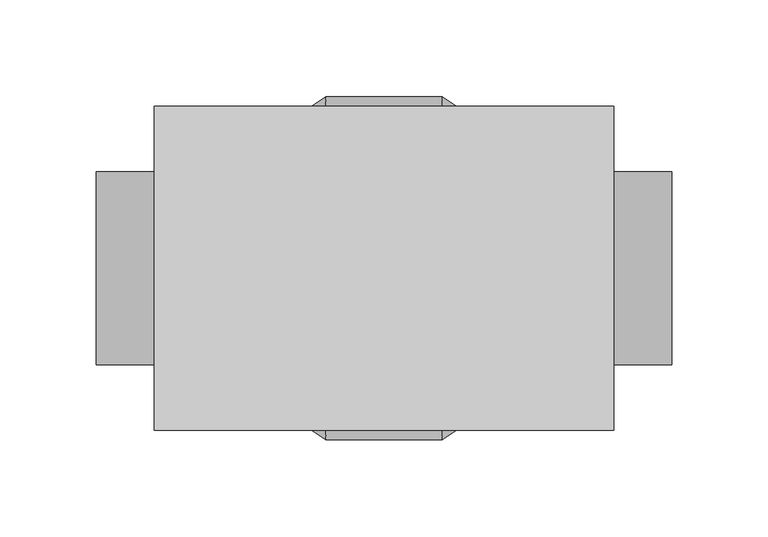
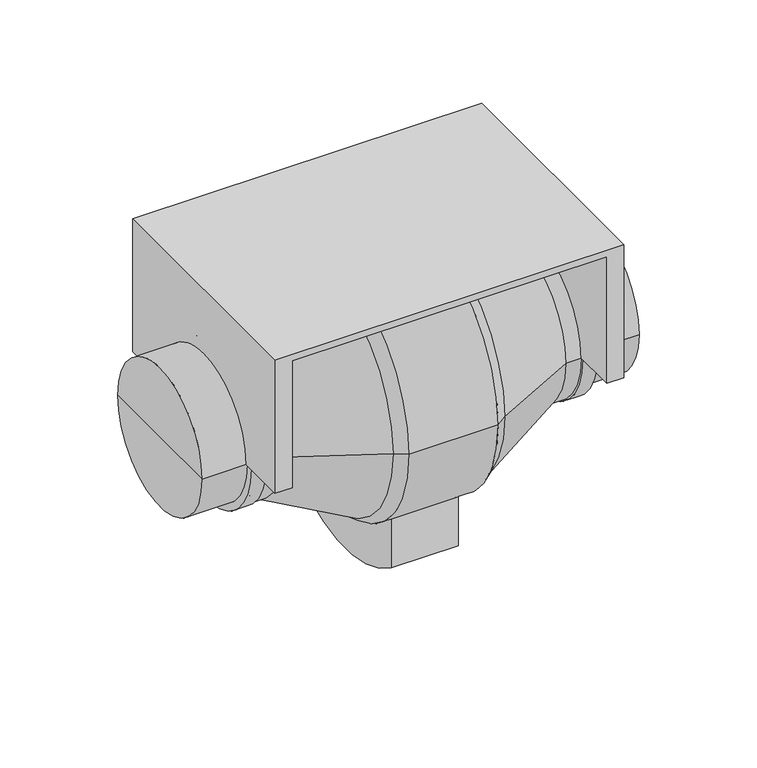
"""IFC4 building model written with IfcOpenShell, lengths in millimetres: unitary equipment geometry, VE-Wentylator-ParaForma-Harmann-ML-Nawiewny : 100/300."""

from ifc_helpers import new_model, si_unit, point, frame, origin, origin_2d, place, context, project, spatial, polyline, circle_curve, trimmed, segment, composite_curve, outline, extrude, source, transform, mapped, element, save
from ifc_brep_helpers import plane_surface, cylinder_surface, revolved_surface, advanced_brep


def unitary_equipment_976d24a4(model_context):
    return source(origin(), model_context, "Body", "SolidModel", [
        extrude(outline(composite_curve([segment(trimmed(circle_curve(origin_2d(), 50.0), [point((-50.0, 0.0))], [point((50.0, 0.0))], True, "CARTESIAN"), True, "CONTINUOUS"), segment(polyline([(50.0, 0.0), (55.0, 0.0)]), True, "CONTINUOUS"), segment(trimmed(circle_curve(origin_2d(), 55.0), [point((55.0, 0.0))], [point((-55.0, 0.0))], False, "CARTESIAN"), True, "CONTINUOUS"), segment(polyline([(-55.0, 0.0), (-50.0, 0.0)]), True, "CONTINUOUS")], self_intersect=False)), frame((108.1, 0.0, 0.0), z_axis=(1.0, 0.0, 0.0), x_axis=(0.0, 1.0, 0.0)), (0.0, 0.0, 1.0), 10.0),
        extrude(outline(composite_curve([segment(trimmed(circle_curve(origin_2d(), 50.0), [point((-50.0, 0.0))], [point((50.0, 0.0))], True, "CARTESIAN"), True, "CONTINUOUS"), segment(polyline([(50.0, 0.0), (55.0, 0.0)]), True, "CONTINUOUS"), segment(trimmed(circle_curve(origin_2d(), 55.0), [point((55.0, 0.0))], [point((-55.0, 0.0))], False, "CARTESIAN"), True, "CONTINUOUS"), segment(polyline([(-55.0, 0.0), (-50.0, 0.0)]), True, "CONTINUOUS")], self_intersect=False)), frame((-118.1, 0.0, 0.0), z_axis=(1.0, 0.0, 0.0), x_axis=(0.0, 1.0, 0.0)), (0.0, 0.0, 1.0), 10.0),
        advanced_brep(
        [(-119.0, 84.0, 0.0), (-119.0, 50.0, 0.0), (-119.0, -50.0, 0.0), (-119.0, -84.0, 0.0), (-119.0, -84.0, 96.0), (-119.0, 84.0, 96.0), (-107.3, -84.0, 0.0), (-107.3, -50.0, 0.0), (-107.3, 50.0, 0.0), (-107.3, 84.0, 0.0), (-107.3, 84.0, 91.3), (-107.3, -84.0, 91.3), (107.3, -84.0, 91.3), (107.3, 84.0, 91.3), (107.3, -84.0, 0.0), (119.0, -84.0, 0.0), (119.0, -84.0, 96.0), (119.0, 84.0, 96.0), (119.0, 84.0, 0.0), (107.3, 84.0, 0.0), (107.3, 50.0, 0.0), (107.3, -50.0, 0.0), (119.0, -50.0, 0.0), (119.0, 50.0, 0.0)],
        [
            (0, 1),
            (1, 2, circle_curve(frame((-119.0, 0.0, 0.0), z_axis=(1.0, 0.0, 0.0), x_axis=(0.0, 1.0, 0.0)), 50.0)),
            (2, 3),
            (3, 4),
            (4, 5),
            (5, 0),
            (6, 7),
            (7, 8, circle_curve(frame((-107.3, 0.0, 0.0), z_axis=(-1.0, 0.0, 0.0), x_axis=(0.0, 1.0, 0.0)), 50.0)),
            (8, 9),
            (9, 10),
            (10, 11),
            (11, 6),
            (12, 11),
            (10, 13),
            (13, 12),
            (3, 6),
            (12, 14),
            (14, 15),
            (15, 16),
            (16, 4),
            (16, 17),
            (17, 5),
            (17, 18),
            (18, 19),
            (19, 13),
            (9, 0),
            (8, 1),
            (7, 2),
            (19, 20),
            (20, 21, circle_curve(frame((107.3, 0.0, 0.0), z_axis=(1.0, 0.0, 0.0), x_axis=(0.0, 1.0, 0.0)), 50.0)),
            (21, 14),
            (15, 22),
            (22, 23, circle_curve(frame((119.0, 0.0, 0.0), z_axis=(-1.0, 0.0, 0.0), x_axis=(0.0, 1.0, 0.0)), 50.0)),
            (23, 18),
            (23, 20),
            (22, 21),
        ],
        [
            plane_surface(frame((-119.0, 0.0, 0.0), z_axis=(-1.0, 0.0, 0.0), x_axis=(0.0, 0.0, 1.0))),
            plane_surface(frame((-107.3, 0.0, 0.0), z_axis=(1.0, 0.0, 0.0), x_axis=(0.0, 0.0, 1.0))),
            plane_surface(frame((-107.3, 84.0, 91.3), z_axis=(0.0, 0.0, -1.0), x_axis=(1.0, 0.0, 0.0))),
            plane_surface(frame((-119.0, -84.0, 0.0), z_axis=(0.0, -1.0, 0.0), x_axis=(1.0, 0.0, 0.0))),
            plane_surface(frame((-119.0, -84.0, 96.0), z_axis=(0.0, 0.0, 1.0), x_axis=(1.0, 0.0, 0.0))),
            plane_surface(frame((-119.0, 84.0, 96.0), z_axis=(0.0, 1.0, 0.0), x_axis=(1.0, 0.0, 0.0))),
            plane_surface(frame((-119.0, 84.0, 0.0), z_axis=(0.0, 0.0, -1.0), x_axis=(1.0, 0.0, 0.0))),
            revolved_surface(polyline([(-107.3, 50.0, 0.0), (-119.0, 50.0, 0.0)]), (-119.0, 0.0, 0.0), (1.0, 0.0, 0.0)),
            plane_surface(frame((-119.0, -50.0, 0.0), z_axis=(0.0, 0.0, -1.0), x_axis=(1.0, 0.0, 0.0))),
            plane_surface(frame((107.3, 0.0, 0.0), z_axis=(-1.0, 0.0, 0.0), x_axis=(0.0, 0.0, 1.0))),
            plane_surface(frame((119.0, 0.0, 0.0), z_axis=(1.0, 0.0, 0.0), x_axis=(0.0, 0.0, 1.0))),
            plane_surface(frame((107.3, 84.0, 0.0), z_axis=(0.0, 0.0, -1.0), x_axis=(1.0, 0.0, 0.0))),
            revolved_surface(polyline([(119.0, 50.0, 0.0), (107.3, 50.0, 0.0)]), (107.3, 0.0, 0.0), (1.0, 0.0, 0.0)),
            plane_surface(frame((107.3, -50.0, 0.0), z_axis=(0.0, 0.0, -1.0), x_axis=(1.0, 0.0, 0.0))),
        ],
        [
            (0, [[1, 2, 3, 4, 5, 6]]),
            (1, [[7, 8, 9, 10, 11, 12]]),
            (2, [[13, -11, 14, 15]]),
            (3, [[-4, 16, -12, -13, 17, 18, 19, 20]]),
            (4, [[-5, -20, 21, 22]]),
            (5, [[-6, -22, 23, 24, 25, -14, -10, 26]]),
            (6, [[-1, -26, -9, 27]]),
            (7, [[-2, -27, -8, 28]]),
            (8, [[-3, -28, -7, -16]]),
            (9, [[29, 30, 31, -17, -15, -25]]),
            (10, [[-23, -21, -19, 32, 33, 34]]),
            (11, [[-29, -24, -34, 35]]),
            (12, [[-30, -35, -33, 36]]),
            (13, [[-31, -36, -32, -18]]),
        ],
    ),
        advanced_brep(
        [(-22.9, 55.0, -105.0), (-22.9, -55.0, -105.0), (-22.9, -55.0, -69.9714227), (-22.9, 55.0, -69.9714227), (22.9, -55.0, -105.0), (22.9, 55.0, -105.0), (22.9, 55.0, -69.9714227), (22.9, -55.0, -69.9714227), (149.0, -50.0, 0.0), (149.0, 50.0, 0.0), (149.0, 0.0, 0.0), (107.3, -50.0, 0.0), (107.3, 50.0, 0.0), (30.3, -89.0, 0.0), (30.3, 89.0, 0.0), (37.9, 83.6, 0.0), (37.9, -83.6, 0.0), (-30.3, -89.0, 0.0), (-30.3, 89.0, 0.0), (-37.9, -83.6, 0.0), (-37.9, 83.6, 0.0), (-149.0, -50.0, 0.0), (-149.0, 50.0, 0.0), (-107.3, 50.0, 0.0), (-107.3, -50.0, 0.0), (-149.0, 0.0, 0.0), (107.3, -53.9, 0.0), (107.3, 53.9, 0.0), (97.0, -53.9, 0.0), (97.0, 53.9, 0.0), (-97.0, -53.9, 0.0), (-97.0, 53.9, 0.0), (-107.3, -53.9, 0.0), (-107.3, 53.9, 0.0)],
        [
            (0, 1, circle_curve(frame((-22.9, 0.0, -35.0285773), z_axis=(-1.0, 0.0, 0.0), x_axis=(0.0, 0.999999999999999, 0.0)), 89.0)),
            (1, 2),
            (2, 3, circle_curve(frame((-22.9, 0.0, 0.0), z_axis=(1.0, 0.0, 0.0), x_axis=(0.0, 0.999999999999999, 0.0)), 89.0)),
            (3, 0),
            (4, 5, circle_curve(frame((22.9, 0.0, -35.0285773), z_axis=(1.0, 0.0, 0.0), x_axis=(0.0, 0.999999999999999, 0.0)), 89.0)),
            (5, 6),
            (6, 7, circle_curve(frame((22.9, 0.0, 0.0), z_axis=(-1.0, 0.0, 0.0), x_axis=(0.0, 0.999999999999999, 0.0)), 89.0)),
            (7, 4),
            (0, 5),
            (4, 1),
            (7, 2),
            (3, 6),
            (8, 9, circle_curve(frame((149.0, 0.0, 0.0), z_axis=(1.0, 0.0, 0.0), x_axis=(0.0, 0.999999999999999, 0.0)), 50.0)),
            (9, 10),
            (10, 8),
            (9, 8, circle_curve(frame((149.0, 0.0, 0.0), z_axis=(1.0, 0.0, 0.0), x_axis=(0.0, 0.999999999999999, 0.0)), 50.0)),
            (8, 11),
            (11, 12, circle_curve(frame((107.3, 0.0, 0.0), z_axis=(1.0, 0.0, 0.0), x_axis=(0.0, 0.999999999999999, 0.0)), 50.0)),
            (12, 9),
            (12, 11, circle_curve(frame((107.3, 0.0, 0.0), z_axis=(1.0, 0.0, 0.0), x_axis=(0.0, 0.999999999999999, 0.0)), 50.0)),
            (13, 14, circle_curve(frame((30.3, 0.0, 0.0), z_axis=(1.0, 0.0, 0.0), x_axis=(0.0, 0.999999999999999, 0.0)), 89.0)),
            (14, 15),
            (15, 16, circle_curve(frame((37.9, 0.0, 0.0), z_axis=(-1.0, 0.0, 0.0), x_axis=(0.0, 0.999999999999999, 0.0)), 83.6)),
            (16, 13),
            (14, 13, circle_curve(frame((30.3, 0.0, 0.0), z_axis=(1.0, 0.0, 0.0), x_axis=(0.0, 0.999999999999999, 0.0)), 89.0)),
            (16, 15, circle_curve(frame((37.9, 0.0, 0.0), z_axis=(-1.0, 0.0, 0.0), x_axis=(0.0, 0.999999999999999, 0.0)), 83.6)),
            (13, 17),
            (17, 18, circle_curve(frame((-30.3, 0.0, 0.0), z_axis=(1.0, 0.0, 0.0), x_axis=(0.0, 0.999999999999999, 0.0)), 89.0)),
            (18, 14),
            (18, 17, circle_curve(frame((-30.3, 0.0, 0.0), z_axis=(1.0, 0.0, 0.0), x_axis=(0.0, 0.999999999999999, 0.0)), 89.0)),
            (17, 19),
            (19, 20, circle_curve(frame((-37.9, 0.0, 0.0), z_axis=(1.0, 0.0, 0.0), x_axis=(0.0, 0.999999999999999, 0.0)), 83.6)),
            (20, 18),
            (20, 19, circle_curve(frame((-37.9, 0.0, 0.0), z_axis=(1.0, 0.0, 0.0), x_axis=(0.0, 0.999999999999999, 0.0)), 83.6)),
            (21, 22, circle_curve(frame((-149.0, 0.0, 0.0), z_axis=(1.0, 0.0, 0.0), x_axis=(0.0, 0.999999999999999, 0.0)), 50.0)),
            (22, 23),
            (23, 24, circle_curve(frame((-107.3, 0.0, 0.0), z_axis=(-1.0, 0.0, 0.0), x_axis=(0.0, 0.999999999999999, 0.0)), 50.0)),
            (24, 21),
            (22, 21, circle_curve(frame((-149.0, 0.0, 0.0), z_axis=(1.0, 0.0, 0.0), x_axis=(0.0, 0.999999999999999, 0.0)), 50.0)),
            (24, 23, circle_curve(frame((-107.3, 0.0, 0.0), z_axis=(-1.0, 0.0, 0.0), x_axis=(0.0, 0.999999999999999, 0.0)), 50.0)),
            (21, 25),
            (25, 22),
            (11, 26),
            (26, 27, circle_curve(frame((107.3, 0.0, 0.0), z_axis=(1.0, 0.0, 0.0), x_axis=(0.0, 0.999999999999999, 0.0)), 53.9)),
            (27, 12),
            (27, 26, circle_curve(frame((107.3, 0.0, 0.0), z_axis=(1.0, 0.0, 0.0), x_axis=(0.0, 0.999999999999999, 0.0)), 53.9)),
            (26, 28),
            (28, 29, circle_curve(frame((97.0, 0.0, 0.0), z_axis=(1.0, 0.0, 0.0), x_axis=(0.0, 0.999999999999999, 0.0)), 53.9)),
            (29, 27),
            (29, 28, circle_curve(frame((97.0, 0.0, 0.0), z_axis=(1.0, 0.0, 0.0), x_axis=(0.0, 0.999999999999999, 0.0)), 53.9)),
            (15, 29),
            (28, 16),
            (19, 30),
            (30, 31, circle_curve(frame((-97.0, 0.0, 0.0), z_axis=(1.0, 0.0, 0.0), x_axis=(0.0, 0.999999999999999, 0.0)), 53.9)),
            (31, 20),
            (31, 30, circle_curve(frame((-97.0, 0.0, 0.0), z_axis=(1.0, 0.0, 0.0), x_axis=(0.0, 0.999999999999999, 0.0)), 53.9)),
            (30, 32),
            (32, 33, circle_curve(frame((-107.3, 0.0, 0.0), z_axis=(1.0, 0.0, 0.0), x_axis=(0.0, 0.999999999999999, 0.0)), 53.9)),
            (33, 31),
            (33, 32, circle_curve(frame((-107.3, 0.0, 0.0), z_axis=(1.0, 0.0, 0.0), x_axis=(0.0, 0.999999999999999, 0.0)), 53.9)),
            (23, 33),
            (32, 24),
        ],
        [
            plane_surface(frame((-22.9, 0.0, 0.0), z_axis=(-1.0, 0.0, 0.0), x_axis=(0.0, 0.0, 1.0))),
            plane_surface(frame((22.9, 0.0, 0.0), z_axis=(1.0, 0.0, 0.0), x_axis=(0.0, 0.0, 1.0))),
            cylinder_surface(frame((-22.9, 0.0, -35.0285773), z_axis=(-0.9999999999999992, 0.0, 0.0), x_axis=(0.0, 0.999999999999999, 0.0)), 89.0),
            plane_surface(frame((-22.9, -55.0, -105.0), z_axis=(0.0, -1.0, 0.0), x_axis=(1.0, 0.0, 0.0))),
            plane_surface(frame((-22.9, 55.0, 0.0), z_axis=(0.0, 1.0, 0.0), x_axis=(1.0, 0.0, 0.0))),
            plane_surface(frame((149.0, 0.0, 0.0), z_axis=(1.0, 0.0, 0.0), x_axis=(0.0, 1.0, 0.0))),
            cylinder_surface(frame((-149.0, 0.0, 0.0), z_axis=(-0.9999999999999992, 0.0, 0.0), x_axis=(0.0, 0.999999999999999, 0.0)), 50.0),
            revolved_surface(polyline([(37.9, 83.6, 0.0), (30.3, 89.0, 0.0)]), (-149.0, 0.0, 0.0), (-0.9999999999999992, 0.0, 0.0)),
            cylinder_surface(frame((-149.0, 0.0, 0.0), z_axis=(-0.9999999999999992, 0.0, 0.0), x_axis=(0.0, 0.999999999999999, 0.0)), 89.0),
            revolved_surface(polyline([(-30.3, 89.0, 0.0), (-37.9, 83.6, 0.0)]), (-149.0, 0.0, 0.0), (-0.9999999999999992, 0.0, 0.0)),
            plane_surface(frame((-149.0, 0.0, 0.0), z_axis=(-1.0, 0.0, 0.0), x_axis=(0.0, 1.0, 0.0))),
            plane_surface(frame((107.3, 0.0, 0.0), z_axis=(1.0, 0.0, 0.0), x_axis=(0.0, 1.0, 0.0))),
            cylinder_surface(frame((-149.0, 0.0, 0.0), z_axis=(-0.9999999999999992, 0.0, 0.0), x_axis=(0.0, 0.999999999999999, 0.0)), 53.9),
            revolved_surface(polyline([(97.0, 53.9, 0.0), (37.9, 83.6, 0.0)]), (-149.0, 0.0, 0.0), (-0.9999999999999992, 0.0, 0.0)),
            revolved_surface(polyline([(-37.9, 83.6, 0.0), (-97.0, 53.9, 0.0)]), (-149.0, 0.0, 0.0), (-0.9999999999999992, 0.0, 0.0)),
            plane_surface(frame((-107.3, 0.0, 0.0), z_axis=(-1.0, 0.0, 0.0), x_axis=(0.0, 1.0, 0.0))),
        ],
        [
            (0, [[1, 2, 3, 4]]),
            (1, [[5, 6, 7, 8]]),
            (2, [[-1, 9, -5, 10]]),
            (3, [[-10, -8, 11, -2]]),
            (4, [[-9, -4, 12, -6]]),
            (5, [[13, 14, 15]]),
            (5, [[-14, 16, -15]]),
            (6, [[-13, 17, 18, 19]]),
            (6, [[-16, -19, 20, -17]]),
            (7, [[21, 22, 23, 24]]),
            (7, [[-22, 25, -24, 26]]),
            (8, [[-21, 27, 28, 29], [-3, -11, -7, -12]]),
            (8, [[-25, -29, 30, -27]]),
            (9, [[-28, 31, 32, 33]]),
            (9, [[-30, -33, 34, -31]]),
            (6, [[35, 36, 37, 38]]),
            (6, [[-36, 39, -38, 40]]),
            (10, [[-35, 41, 42]]),
            (10, [[-39, -42, -41]]),
            (11, [[-18, 43, 44, 45]]),
            (11, [[-20, -45, 46, -43]]),
            (12, [[-44, 47, 48, 49]]),
            (12, [[-46, -49, 50, -47]]),
            (13, [[-23, 51, -48, 52]]),
            (13, [[-26, -52, -50, -51]]),
            (14, [[-32, 53, 54, 55]]),
            (14, [[-34, -55, 56, -53]]),
            (12, [[-54, 57, 58, 59]]),
            (12, [[-56, -59, 60, -57]]),
            (15, [[-37, 61, -58, 62]]),
            (15, [[-40, -62, -60, -61]]),
        ],
    ),
    ])


if __name__ == "__main__":
    model = new_model("IFC4")
    model_context = context("Model", 3, world=origin())
    ifc_project = project(units=[si_unit("LENGTHUNIT", "METRE", prefix="MILLI")], contexts=[model_context])
    site = spatial("IfcSite", under=ifc_project)
    building = spatial("IfcBuilding", under=site)
    placement = place(None, origin())
    unitary_equipment_shape = unitary_equipment_976d24a4(model_context)
    element("IfcUnitaryEquipment", 1, ObjectType="VE-Wentylator-ParaForma-Harmann-ML-Nawiewny : 100/300", at=placement, inside=building, context=model_context, shape_type="MappedRepresentation", body=[
        mapped(unitary_equipment_shape, transform((0.0, 0.0, 0.0), x_axis=(1.0, 0.0, 0.0), y_axis=(0.0, 1.0, 0.0), z_axis=(0.0, 0.0, 1.0))),
    ])
    save(model, "model.ifc")
